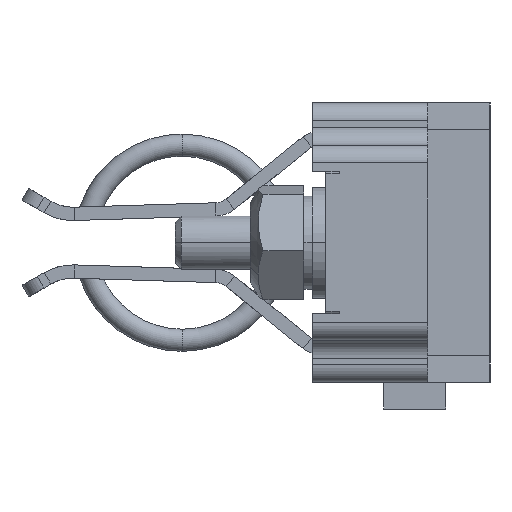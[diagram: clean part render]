
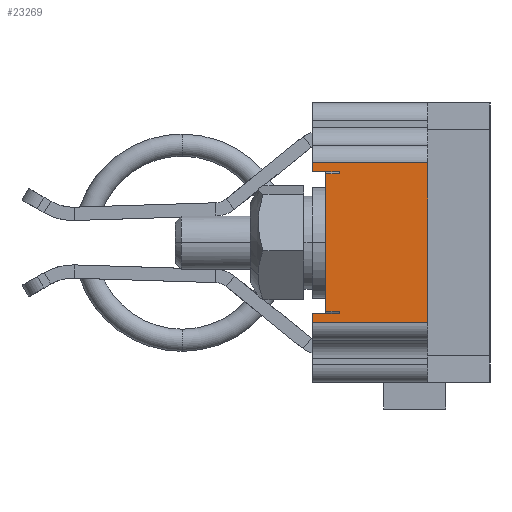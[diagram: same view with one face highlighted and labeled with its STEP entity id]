
A CAD part, left-side view. The second image highlights one B-rep face of the part: STEP entity #23269.
In plain terms, the highlighted planar face has unit normal (-1, 0, 0).
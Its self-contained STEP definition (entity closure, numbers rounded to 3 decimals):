
#133 = CARTESIAN_POINT ( 'NONE',  ( -78.471, 17.261, -7.5 ) ) ;
#142 = VERTEX_POINT ( 'NONE', #15640 ) ;
#211 = CARTESIAN_POINT ( 'NONE',  ( -78.471, 4.261, -7.5 ) ) ;
#401 = LINE ( 'NONE', #27422, #22491 ) ;
#903 = DIRECTION ( 'NONE',  ( 0., 0., -1. ) ) ;
#1060 = VECTOR ( 'NONE', #22197, 1000. ) ;
#1490 = VERTEX_POINT ( 'NONE', #3638 ) ;
#1658 = VERTEX_POINT ( 'NONE', #8298 ) ;
#2349 = DIRECTION ( 'NONE',  ( 0., 1., 0. ) ) ;
#2352 = LINE ( 'NONE', #24260, #25427 ) ;
#2865 = FACE_OUTER_BOUND ( 'NONE', #6930, .T. ) ;
#3198 = EDGE_CURVE ( 'NONE', #7161, #4800, #7114, .T. ) ;
#3358 = VECTOR ( 'NONE', #23119, 1000. ) ;
#3638 = CARTESIAN_POINT ( 'NONE',  ( -78.471, 4.261, 10.5 ) ) ;
#3721 = LINE ( 'NONE', #5768, #3358 ) ;
#4170 = VERTEX_POINT ( 'NONE', #211 ) ;
#4495 = DIRECTION ( 'NONE',  ( 0., 1., 0. ) ) ;
#4800 = VERTEX_POINT ( 'NONE', #24004 ) ;
#5213 = VERTEX_POINT ( 'NONE', #17106 ) ;
#5222 = VERTEX_POINT ( 'NONE', #18900 ) ;
#5281 = VERTEX_POINT ( 'NONE', #8662 ) ;
#5752 = LINE ( 'NONE', #21923, #22371 ) ;
#5768 = CARTESIAN_POINT ( 'NONE',  ( -78.471, 14.261, 9.5 ) ) ;
#6404 = LINE ( 'NONE', #11763, #20987 ) ;
#6556 = DIRECTION ( 'NONE',  ( 0., 0., -1. ) ) ;
#6750 = VECTOR ( 'NONE', #13861, 1000. ) ;
#6930 = EDGE_LOOP ( 'NONE', ( #14148, #16676, #27906, #16556, #13143, #7398, #16129, #19742, #27656, #12905, #22524, #8025 ) ) ;
#7114 = LINE ( 'NONE', #11223, #7800 ) ;
#7161 = VERTEX_POINT ( 'NONE', #9271 ) ;
#7398 = ORIENTED_EDGE ( 'NONE', *, *, #15433, .F. ) ;
#7800 = VECTOR ( 'NONE', #26345, 1000. ) ;
#8025 = ORIENTED_EDGE ( 'NONE', *, *, #25629, .T. ) ;
#8042 = EDGE_CURVE ( 'NONE', #5281, #142, #401, .T. ) ;
#8130 = LINE ( 'NONE', #24147, #6750 ) ;
#8298 = CARTESIAN_POINT ( 'NONE',  ( -78.471, 15.761, -6.25 ) ) ;
#8299 = LINE ( 'NONE', #20229, #9668 ) ;
#8372 = EDGE_CURVE ( 'NONE', #1658, #5222, #8909, .T. ) ;
#8662 = CARTESIAN_POINT ( 'NONE',  ( -78.471, 17.261, 10.5 ) ) ;
#8909 = LINE ( 'NONE', #20091, #1060 ) ;
#9230 = LINE ( 'NONE', #19765, #25457 ) ;
#9271 = CARTESIAN_POINT ( 'NONE',  ( -78.471, 14.261, 9.25 ) ) ;
#9495 = EDGE_CURVE ( 'NONE', #14055, #5222, #3721, .T. ) ;
#9668 = VECTOR ( 'NONE', #13915, 1000. ) ;
#10018 = CARTESIAN_POINT ( 'NONE',  ( -78.471, 4.261, 17.25 ) ) ;
#10112 = CARTESIAN_POINT ( 'NONE',  ( -78.471, 4.261, 17.25 ) ) ;
#10380 = DIRECTION ( 'NONE',  ( 0., 0., -1. ) ) ;
#10713 = VERTEX_POINT ( 'NONE', #19031 ) ;
#11223 = CARTESIAN_POINT ( 'NONE',  ( -78.471, 14.261, 9.5 ) ) ;
#11763 = CARTESIAN_POINT ( 'NONE',  ( -78.471, 15.761, 9.25 ) ) ;
#12110 = PLANE ( 'NONE',  #25576 ) ;
#12383 = DIRECTION ( 'NONE',  ( 0., 0., -1. ) ) ;
#12510 = EDGE_CURVE ( 'NONE', #1490, #5281, #2352, .T. ) ;
#12905 = ORIENTED_EDGE ( 'NONE', *, *, #8372, .T. ) ;
#13143 = ORIENTED_EDGE ( 'NONE', *, *, #8042, .T. ) ;
#13549 = LINE ( 'NONE', #15662, #18624 ) ;
#13861 = DIRECTION ( 'NONE',  ( 0., 1., 0. ) ) ;
#13915 = DIRECTION ( 'NONE',  ( 0., 1., 0. ) ) ;
#14055 = VERTEX_POINT ( 'NONE', #17562 ) ;
#14148 = ORIENTED_EDGE ( 'NONE', *, *, #24986, .T. ) ;
#15230 = VERTEX_POINT ( 'NONE', #133 ) ;
#15433 = EDGE_CURVE ( 'NONE', #4800, #142, #8130, .T. ) ;
#15482 = EDGE_CURVE ( 'NONE', #5213, #1658, #6404, .T. ) ;
#15640 = CARTESIAN_POINT ( 'NONE',  ( -78.471, 17.261, 9.5 ) ) ;
#15662 = CARTESIAN_POINT ( 'NONE',  ( -78.471, 4.261, -7.5 ) ) ;
#16129 = ORIENTED_EDGE ( 'NONE', *, *, #3198, .F. ) ;
#16453 = LINE ( 'NONE', #10018, #19826 ) ;
#16556 = ORIENTED_EDGE ( 'NONE', *, *, #12510, .T. ) ;
#16676 = ORIENTED_EDGE ( 'NONE', *, *, #26527, .T. ) ;
#17106 = CARTESIAN_POINT ( 'NONE',  ( -78.471, 15.761, 9.25 ) ) ;
#17562 = CARTESIAN_POINT ( 'NONE',  ( -78.471, 14.261, -6.5 ) ) ;
#17838 = DIRECTION ( 'NONE',  ( 0., -1., 0. ) ) ;
#18624 = VECTOR ( 'NONE', #17838, 1000. ) ;
#18696 = EDGE_CURVE ( 'NONE', #7161, #5213, #8299, .T. ) ;
#18900 = CARTESIAN_POINT ( 'NONE',  ( -78.471, 14.261, -6.25 ) ) ;
#19031 = CARTESIAN_POINT ( 'NONE',  ( -78.471, 17.261, -6.5 ) ) ;
#19742 = ORIENTED_EDGE ( 'NONE', *, *, #18696, .T. ) ;
#19765 = CARTESIAN_POINT ( 'NONE',  ( -78.471, 14.261, -6.5 ) ) ;
#19826 = VECTOR ( 'NONE', #10380, 1000. ) ;
#20091 = CARTESIAN_POINT ( 'NONE',  ( -78.471, 15.761, -6.25 ) ) ;
#20229 = CARTESIAN_POINT ( 'NONE',  ( -78.471, 15.761, 9.25 ) ) ;
#20987 = VECTOR ( 'NONE', #903, 1000. ) ;
#21071 = DIRECTION ( 'NONE',  ( 0., 0., -1. ) ) ;
#21923 = CARTESIAN_POINT ( 'NONE',  ( -78.471, 17.261, 17.25 ) ) ;
#22197 = DIRECTION ( 'NONE',  ( 0., -1., 0. ) ) ;
#22371 = VECTOR ( 'NONE', #6556, 1000. ) ;
#22491 = VECTOR ( 'NONE', #21071, 1000. ) ;
#22524 = ORIENTED_EDGE ( 'NONE', *, *, #9495, .F. ) ;
#23082 = DIRECTION ( 'NONE',  ( 1., 0., 0. ) ) ;
#23119 = DIRECTION ( 'NONE',  ( 0., 0., 1. ) ) ;
#23269 = ADVANCED_FACE ( 'NONE', ( #2865 ), #12110, .F. ) ;
#23326 = EDGE_CURVE ( 'NONE', #1490, #4170, #16453, .T. ) ;
#24004 = CARTESIAN_POINT ( 'NONE',  ( -78.471, 14.261, 9.5 ) ) ;
#24147 = CARTESIAN_POINT ( 'NONE',  ( -78.471, 14.261, 9.5 ) ) ;
#24260 = CARTESIAN_POINT ( 'NONE',  ( -78.471, 4.261, 10.5 ) ) ;
#24986 = EDGE_CURVE ( 'NONE', #10713, #15230, #5752, .T. ) ;
#25427 = VECTOR ( 'NONE', #2349, 1000. ) ;
#25457 = VECTOR ( 'NONE', #4495, 1000. ) ;
#25576 = AXIS2_PLACEMENT_3D ( 'NONE', #10112, #23082, #12383 ) ;
#25629 = EDGE_CURVE ( 'NONE', #14055, #10713, #9230, .T. ) ;
#26345 = DIRECTION ( 'NONE',  ( 0., 0., 1. ) ) ;
#26527 = EDGE_CURVE ( 'NONE', #15230, #4170, #13549, .T. ) ;
#27422 = CARTESIAN_POINT ( 'NONE',  ( -78.471, 17.261, 17.25 ) ) ;
#27656 = ORIENTED_EDGE ( 'NONE', *, *, #15482, .T. ) ;
#27906 = ORIENTED_EDGE ( 'NONE', *, *, #23326, .F. ) ;
